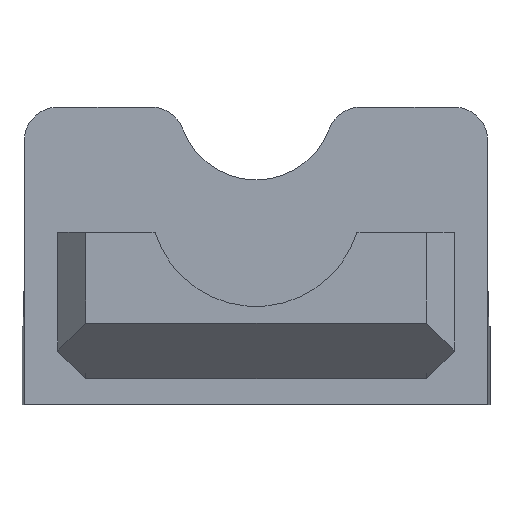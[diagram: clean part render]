
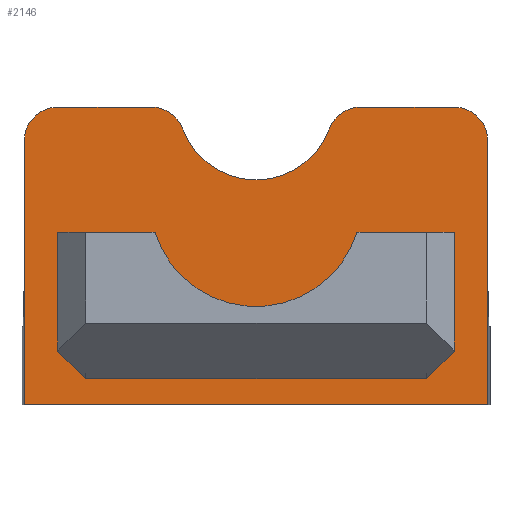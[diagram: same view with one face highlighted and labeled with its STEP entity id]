
A CAD part, left-side view. The second image highlights one B-rep face of the part: STEP entity #2146.
In plain terms, the highlighted planar face has unit normal (-1, 0, 0).
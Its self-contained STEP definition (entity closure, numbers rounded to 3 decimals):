
#15=FACE_BOUND('',#357,.T.);
#98=PLANE('',#2356);
#224=FACE_OUTER_BOUND('',#356,.T.);
#356=EDGE_LOOP('',(#1872,#1873,#1874,#1875,#1876,#1877,#1878,#1879,#1880,
#1881));
#357=EDGE_LOOP('',(#1882,#1883,#1884,#1885,#1886,#1887));
#566=LINE('',#3534,#797);
#569=LINE('',#3540,#800);
#570=LINE('',#3542,#801);
#571=LINE('',#3544,#802);
#572=LINE('',#3548,#803);
#573=LINE('',#3556,#804);
#574=LINE('',#3558,#805);
#575=LINE('',#3562,#806);
#576=LINE('',#3564,#807);
#577=LINE('',#3565,#808);
#797=VECTOR('',#2917,10.);
#800=VECTOR('',#2922,10.);
#801=VECTOR('',#2923,10.);
#802=VECTOR('',#2924,10.);
#803=VECTOR('',#2927,10.);
#804=VECTOR('',#2934,10.);
#805=VECTOR('',#2935,10.);
#806=VECTOR('',#2938,10.);
#807=VECTOR('',#2939,10.);
#808=VECTOR('',#2940,10.);
#907=CIRCLE('',#2353,3.);
#909=CIRCLE('',#2357,3.);
#910=CIRCLE('',#2358,3.);
#911=CIRCLE('',#2359,7.);
#912=CIRCLE('',#2360,3.);
#913=CIRCLE('',#2361,9.5);
#1057=VERTEX_POINT('',#3524);
#1058=VERTEX_POINT('',#3525);
#1061=VERTEX_POINT('',#3533);
#1063=VERTEX_POINT('',#3539);
#1064=VERTEX_POINT('',#3541);
#1065=VERTEX_POINT('',#3543);
#1066=VERTEX_POINT('',#3545);
#1067=VERTEX_POINT('',#3547);
#1068=VERTEX_POINT('',#3549);
#1069=VERTEX_POINT('',#3551);
#1070=VERTEX_POINT('',#3554);
#1071=VERTEX_POINT('',#3555);
#1072=VERTEX_POINT('',#3557);
#1073=VERTEX_POINT('',#3559);
#1074=VERTEX_POINT('',#3561);
#1075=VERTEX_POINT('',#3563);
#1338=EDGE_CURVE('',#1057,#1058,#907,.T.);
#1342=EDGE_CURVE('',#1061,#1058,#566,.T.);
#1345=EDGE_CURVE('',#1057,#1063,#569,.T.);
#1346=EDGE_CURVE('',#1064,#1063,#570,.T.);
#1347=EDGE_CURVE('',#1064,#1065,#571,.T.);
#1348=EDGE_CURVE('',#1066,#1065,#909,.T.);
#1349=EDGE_CURVE('',#1066,#1067,#572,.T.);
#1350=EDGE_CURVE('',#1068,#1067,#910,.T.);
#1351=EDGE_CURVE('',#1068,#1069,#911,.T.);
#1352=EDGE_CURVE('',#1061,#1069,#912,.T.);
#1353=EDGE_CURVE('',#1070,#1071,#573,.T.);
#1354=EDGE_CURVE('',#1071,#1072,#574,.T.);
#1355=EDGE_CURVE('',#1072,#1073,#913,.T.);
#1356=EDGE_CURVE('',#1073,#1074,#575,.T.);
#1357=EDGE_CURVE('',#1074,#1075,#576,.T.);
#1358=EDGE_CURVE('',#1075,#1070,#577,.T.);
#1872=ORIENTED_EDGE('',*,*,#1345,.T.);
#1873=ORIENTED_EDGE('',*,*,#1346,.F.);
#1874=ORIENTED_EDGE('',*,*,#1347,.T.);
#1875=ORIENTED_EDGE('',*,*,#1348,.F.);
#1876=ORIENTED_EDGE('',*,*,#1349,.T.);
#1877=ORIENTED_EDGE('',*,*,#1350,.F.);
#1878=ORIENTED_EDGE('',*,*,#1351,.T.);
#1879=ORIENTED_EDGE('',*,*,#1352,.F.);
#1880=ORIENTED_EDGE('',*,*,#1342,.T.);
#1881=ORIENTED_EDGE('',*,*,#1338,.F.);
#1882=ORIENTED_EDGE('',*,*,#1353,.T.);
#1883=ORIENTED_EDGE('',*,*,#1354,.T.);
#1884=ORIENTED_EDGE('',*,*,#1355,.T.);
#1885=ORIENTED_EDGE('',*,*,#1356,.T.);
#1886=ORIENTED_EDGE('',*,*,#1357,.T.);
#1887=ORIENTED_EDGE('',*,*,#1358,.T.);
#2146=ADVANCED_FACE('',(#224,#15),#98,.F.);
#2353=AXIS2_PLACEMENT_3D('',#3526,#2909,#2910);
#2356=AXIS2_PLACEMENT_3D('',#3538,#2920,#2921);
#2357=AXIS2_PLACEMENT_3D('',#3546,#2925,#2926);
#2358=AXIS2_PLACEMENT_3D('',#3550,#2928,#2929);
#2359=AXIS2_PLACEMENT_3D('',#3552,#2930,#2931);
#2360=AXIS2_PLACEMENT_3D('',#3553,#2932,#2933);
#2361=AXIS2_PLACEMENT_3D('',#3560,#2936,#2937);
#2909=DIRECTION('center_axis',(1.,0.,0.));
#2910=DIRECTION('ref_axis',(0.,0.707,0.707));
#2917=DIRECTION('',(0.,1.,0.));
#2920=DIRECTION('center_axis',(1.,0.,0.));
#2921=DIRECTION('ref_axis',(0.,1.,0.));
#2922=DIRECTION('',(0.,0.,-1.));
#2923=DIRECTION('',(0.,1.,0.));
#2924=DIRECTION('',(0.,0.,1.));
#2925=DIRECTION('center_axis',(1.,0.,0.));
#2926=DIRECTION('ref_axis',(0.,-0.707,0.707));
#2927=DIRECTION('',(0.,1.,0.));
#2928=DIRECTION('center_axis',(1.,0.,0.));
#2929=DIRECTION('ref_axis',(0.,0.572,0.82));
#2930=DIRECTION('center_axis',(1.,0.,0.));
#2931=DIRECTION('ref_axis',(0.,1.,0.));
#2932=DIRECTION('center_axis',(1.,0.,0.));
#2933=DIRECTION('ref_axis',(0.,-0.572,0.82));
#2934=DIRECTION('',(0.,0.,1.));
#2935=DIRECTION('',(0.,-1.,0.));
#2936=DIRECTION('center_axis',(-1.,0.,0.));
#2937=DIRECTION('ref_axis',(0.,1.,0.));
#2938=DIRECTION('',(0.,-1.,0.));
#2939=DIRECTION('',(0.,0.,-1.));
#2940=DIRECTION('',(0.,1.,0.));
#3524=CARTESIAN_POINT('',(96.15,1010.8,-90.76));
#3525=CARTESIAN_POINT('',(96.15,1007.8,-87.76));
#3526=CARTESIAN_POINT('Origin',(96.15,1007.8,-90.76));
#3533=CARTESIAN_POINT('',(96.15,999.382,-87.76));
#3534=CARTESIAN_POINT('',(96.15,969.2,-87.76));
#3538=CARTESIAN_POINT('Origin',(96.15,990.,-99.942));
#3539=CARTESIAN_POINT('',(96.15,1010.8,-114.478));
#3540=CARTESIAN_POINT('',(96.15,1010.8,-106.033));
#3541=CARTESIAN_POINT('',(96.15,969.2,-114.478));
#3542=CARTESIAN_POINT('',(96.15,969.2,-114.478));
#3543=CARTESIAN_POINT('',(96.15,969.2,-90.76));
#3544=CARTESIAN_POINT('',(96.15,969.2,-93.851));
#3545=CARTESIAN_POINT('',(96.15,972.2,-87.76));
#3546=CARTESIAN_POINT('Origin',(96.15,972.2,-90.76));
#3547=CARTESIAN_POINT('',(96.15,980.618,-87.76));
#3548=CARTESIAN_POINT('',(96.15,969.2,-87.76));
#3549=CARTESIAN_POINT('',(96.15,983.433,-89.722));
#3550=CARTESIAN_POINT('Origin',(96.15,980.618,-90.76));
#3551=CARTESIAN_POINT('',(96.15,996.567,-89.722));
#3552=CARTESIAN_POINT('Origin',(96.15,990.,-87.298));
#3553=CARTESIAN_POINT('Origin',(96.15,999.382,-90.76));
#3554=CARTESIAN_POINT('',(96.15,1005.3,-112.15));
#3555=CARTESIAN_POINT('',(96.15,1005.3,-99.));
#3556=CARTESIAN_POINT('',(96.15,1005.3,-106.046));
#3557=CARTESIAN_POINT('',(96.15,999.062,-99.));
#3558=CARTESIAN_POINT('',(96.15,990.,-99.));
#3559=CARTESIAN_POINT('',(96.15,980.938,-99.));
#3560=CARTESIAN_POINT('Origin',(96.15,990.,-96.15));
#3561=CARTESIAN_POINT('',(96.15,974.7,-99.));
#3562=CARTESIAN_POINT('',(96.15,990.,-99.));
#3563=CARTESIAN_POINT('',(96.15,974.7,-112.15));
#3564=CARTESIAN_POINT('',(96.15,974.7,-100.));
#3565=CARTESIAN_POINT('',(96.15,990.,-112.15));
